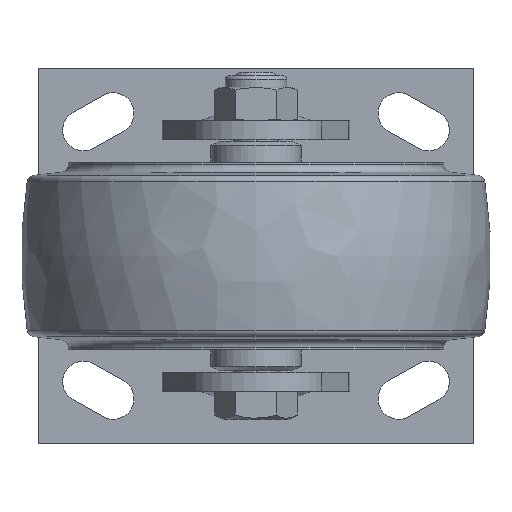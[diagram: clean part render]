
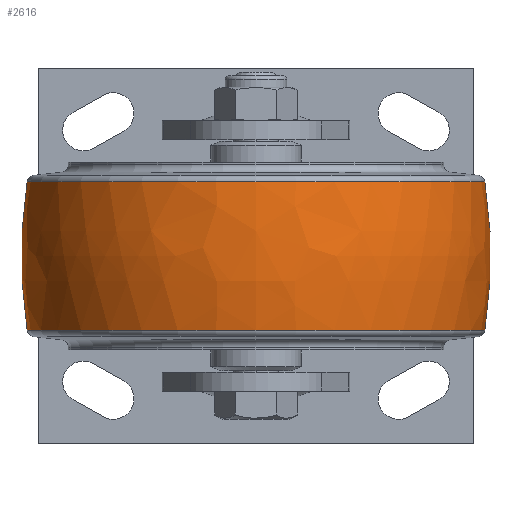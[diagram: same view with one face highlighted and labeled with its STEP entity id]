
A CAD part, front view. The second image highlights one B-rep face of the part: STEP entity #2616.
In plain terms, the highlighted free-form (B-spline) face has degree [3, 3] with [7, 4] control points.
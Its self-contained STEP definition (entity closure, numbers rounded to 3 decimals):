
#2188=CARTESIAN_POINT('',(0.,-64.241,0.));
#2189=DIRECTION('',(0.,0.,1.));
#2190=DIRECTION('',(0.156,0.988,0.));
#2191=AXIS2_PLACEMENT_3D('',#2188,#2189,#2190);
#2193=CARTESIAN_POINT('',(0.,64.241,0.));
#2194=DIRECTION('',(0.,0.,-1.));
#2195=DIRECTION('',(0.156,-0.988,0.));
#2196=AXIS2_PLACEMENT_3D('',#2193,#2194,#2195);
#2198=CARTESIAN_POINT('',(19.804,0.,0.));
#2199=DIRECTION('',(-1.,0.,0.));
#2200=DIRECTION('',(0.,1.,0.));
#2201=AXIS2_PLACEMENT_3D('',#2198,#2199,#2200);
#2213=CARTESIAN_POINT('',(-19.804,0.,0.));
#2214=DIRECTION('',(-1.,0.,0.));
#2215=DIRECTION('',(0.,1.,0.));
#2216=AXIS2_PLACEMENT_3D('',#2213,#2214,#2215);
#2423=CARTESIAN_POINT('',(19.804,60.943,0.));
#2424=VERTEX_POINT('',#2423);
#2425=CARTESIAN_POINT('',(-19.804,60.943,0.));
#2426=VERTEX_POINT('',#2425);
#2455=CARTESIAN_POINT('',(19.804,-60.943,
0.));
#2456=VERTEX_POINT('',#2455);
#2457=CARTESIAN_POINT('',(-19.804,-60.943,
0.));
#2458=VERTEX_POINT('',#2457);
#2580=CARTESIAN_POINT('',(-20.589,-60.696,
3.819));
#2581=CARTESIAN_POINT('',(-6.924,-62.942,
3.96));
#2582=CARTESIAN_POINT('',(6.924,-62.942,3.96));
#2583=CARTESIAN_POINT('',(20.589,-60.696,3.819));
#2584=CARTESIAN_POINT('',(-20.589,-63.046,
-33.534));
#2585=CARTESIAN_POINT('',(-6.924,-65.379,
-34.774));
#2586=CARTESIAN_POINT('',(6.924,-65.379,
-34.774));
#2587=CARTESIAN_POINT('',(20.589,-63.046,
-33.534));
#2588=CARTESIAN_POINT('',(-20.589,-37.426,
-60.816));
#2589=CARTESIAN_POINT('',(-6.924,-38.811,
-63.066));
#2590=CARTESIAN_POINT('',(6.924,-38.811,
-63.066));
#2591=CARTESIAN_POINT('',(20.589,-37.426,
-60.816));
#2592=CARTESIAN_POINT('',(-20.589,0.,
-60.816));
#2593=CARTESIAN_POINT('',(-6.924,0.,
-63.066));
#2594=CARTESIAN_POINT('',(6.924,0.,
-63.066));
#2595=CARTESIAN_POINT('',(20.589,0.,
-60.816));
#2596=CARTESIAN_POINT('',(-20.589,37.426,
-60.816));
#2597=CARTESIAN_POINT('',(-6.924,38.811,
-63.066));
#2598=CARTESIAN_POINT('',(6.924,38.811,-63.066));
#2599=CARTESIAN_POINT('',(20.589,37.426,-60.816));
#2600=CARTESIAN_POINT('',(-20.589,63.046,
-33.534));
#2601=CARTESIAN_POINT('',(-6.924,65.379,
-34.774));
#2602=CARTESIAN_POINT('',(6.924,65.379,-34.774));
#2603=CARTESIAN_POINT('',(20.589,63.046,-33.534));
#2604=CARTESIAN_POINT('',(-20.589,60.696,3.819));
#2605=CARTESIAN_POINT('',(-6.924,62.942,3.96));
#2606=CARTESIAN_POINT('',(6.924,62.942,3.96));
#2607=CARTESIAN_POINT('',(20.589,60.696,3.819));
#2608=(BOUNDED_SURFACE()B_SPLINE_SURFACE(3,3,((#2580,#2581,#2582,#2583),(#2584,
#2585,#2586,#2587),(#2588,#2589,#2590,#2591),(#2592,#2593,#2594,#2595),(#2596,
#2597,#2598,#2599),(#2600,#2601,#2602,#2603),(#2604,#2605,#2606,#2607)),
.UNSPECIFIED.,.F.,.F.,.F.)B_SPLINE_SURFACE_WITH_KNOTS((4,3,4),(4,4),(0.,1.,
2.),(0.,1.),.UNSPECIFIED.)GEOMETRIC_REPRESENTATION_ITEM()RATIONAL_B_SPLINE_SURFACE(((1.195,1.185,1.185,1.195),(
0.944,0.935,0.935,0.944),(
0.944,0.935,0.935,0.944),(
1.195,1.185,1.185,1.195),(
0.944,0.935,0.935,0.944),(
0.944,0.935,0.935,0.944),(
1.195,1.185,1.185,1.195)))REPRESENTATION_ITEM('')SURFACE());
#2609=ORIENTED_EDGE('',*,*,#2570,.T.);
#2611=ORIENTED_EDGE('',*,*,#2610,.T.);
#2612=ORIENTED_EDGE('',*,*,#2573,.F.);
#2613=ORIENTED_EDGE('',*,*,#2520,.F.);
#2614=EDGE_LOOP('',(#2609,#2611,#2612,#2613));
#2615=FACE_OUTER_BOUND('',#2614,.F.);
#2192=CIRCLE('',#2191,126.741);
#2197=CIRCLE('',#2196,126.741);
#2202=CIRCLE('',#2201,60.943);
#2217=CIRCLE('',#2216,60.943);
#2520=EDGE_CURVE('',#2424,#2456,#2202,.T.);
#2570=EDGE_CURVE('',#2424,#2426,#2192,.T.);
#2573=EDGE_CURVE('',#2456,#2458,#2197,.T.);
#2610=EDGE_CURVE('',#2426,#2458,#2217,.T.);
#2616=ADVANCED_FACE('',(#2615),#2608,.T.);
